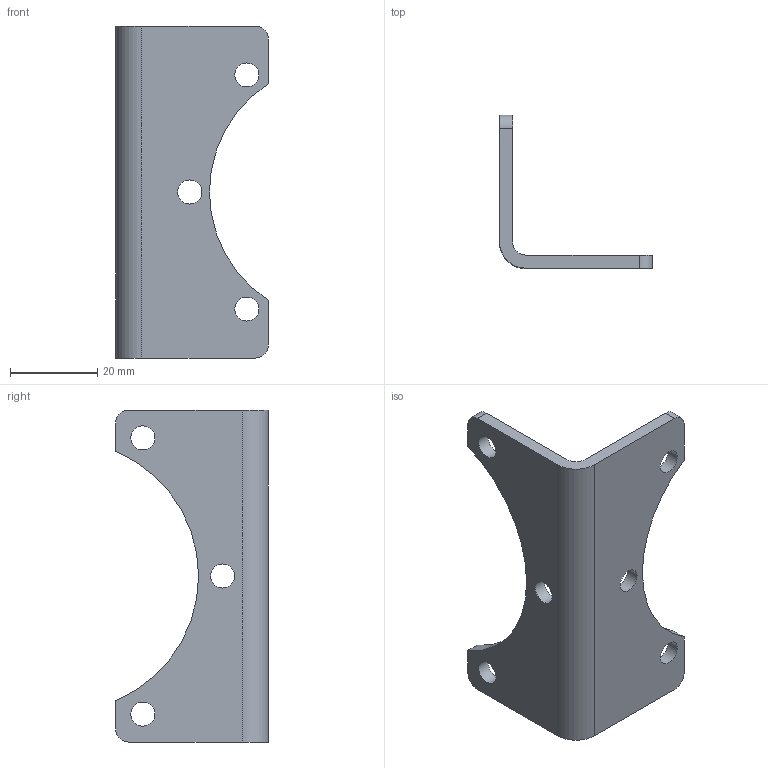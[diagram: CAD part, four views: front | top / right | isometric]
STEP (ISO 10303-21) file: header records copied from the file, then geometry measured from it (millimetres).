
FILE_DESCRIPTION((''),'2;1');
FILE_NAME('K:\ZEICHNG\webgrafik.intern\step\Air-Techniques\BW.30.stp','2013-06-17T14:40:06',('RJanz'),(''),'Autodesk Inventor 2013','Autodesk Inventor 2013','');
FILE_SCHEMA(('CONFIG_CONTROL_DESIGN'));
Length unit declared in the file: millimetre
Products named in the file (1): 10000736
Bounding box: 35 x 35 x 76 mm (x, y, z)
Volume: 10616.5 mm3; surface area: 8294.2 mm2
Topology: 1 solids, 1 shells, 24 faces, 66 edges, 44 vertices
Faces by surface type: cylinder 14, plane 10
Full cylindrical faces by diameter (mm): 5.5 x6
Entity records: 798 total; most frequent: DIRECTION 138, CARTESIAN_POINT 129, ORIENTED_EDGE 120, EDGE_CURVE 60, AXIS2_PLACEMENT_3D 53, VERTEX_POINT 44, EDGE_LOOP 42, VECTOR 32
